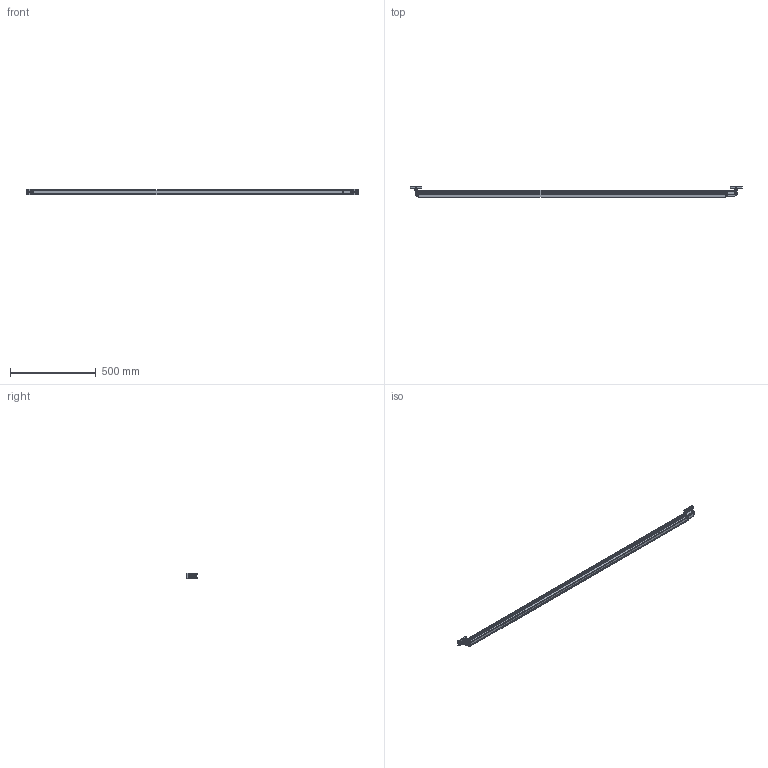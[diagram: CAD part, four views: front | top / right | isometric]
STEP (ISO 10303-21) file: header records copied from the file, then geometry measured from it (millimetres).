
FILE_DESCRIPTION((''),'2;1');
FILE_NAME('M:\INVENTORjob\Konstruktion\LV6036\Freigabe\Bauraummodelle\Geräte\stp\MLC_R_1800 EX-V2.stp','2016-02-05T10:39:13',('phaberl'),(''),'Autodesk Inventor 2009','Autodesk Inventor 2009','');
FILE_SCHEMA(('AUTOMOTIVE_DESIGN { 1 0 10303 214 1 1 1 1 }'));
Length unit declared in the file: millimetre
Products named in the file (15): MLC_R_1800 EX-V2; Anschlusskappe_R; Profil MLC 1800 EX-V2; Endkappe_R; BT-R_Zubehör; Wandteil_Zubehör; Klemmring_BT-R_Zubehör; DIN 912 - ersetzt durch DIN EN ISO 4762 M5 x 12; DIN 934 - ersetzt durch DIN EN 24032/28673/28674 M5; DIN 6912 M5 x 30; Zylinder_Zubehör; DIN 7991 - ersetzt durch DIN EN ISO 10642 M6  x  10; Nutenstein M6; EX-Ring Endkappe-R-V2; EX-Ring Anschlusskappe-R-V2
Assembly tree (18 placements, depth 3):
  MLC_R_1800 EX-V2
    Anschlusskappe_R
    Profil MLC 1800 EX-V2
    Endkappe_R
    BT-R_Zubehör  x2
      Wandteil_Zubehör
      Klemmring_BT-R_Zubehör
      DIN 912 - ersetzt durch DIN EN ISO 4762 M5 x 12
      DIN 934 - ersetzt durch DIN EN 24032/28673/28674 M5
      DIN 6912 M5 x 30
    Zylinder_Zubehör
    DIN 7991 - ersetzt durch DIN EN ISO 10642 M6  x  10
    Nutenstein M6  x2
    EX-Ring Endkappe-R-V2
    EX-Ring Anschlusskappe-R-V2
Bounding box: 1939.15 x 59.5 x 34 mm (x, y, z)
Volume: 1877962 mm3; surface area: 374626.6 mm2
Topology: 23 solids, 23 shells, 927 faces, 2463 edges, 1569 vertices
Faces by surface type: plane 400, cylinder 295, bspline 121, torus 47, cone 46, sphere 18
Full cylindrical faces by diameter (mm): 2.5 x2, 4.65 x2, 5 x12, 5.18 x2, 5.55 x2, 6 x1, 6.2 x9, 8.5 x4, 8.6 x2, 11.34 x1, 12 x2, 18 x1, 22.5 x1
Entity records: 17363 total; most frequent: CARTESIAN_POINT 5066, ORIENTED_EDGE 2498, DIRECTION 2409, EDGE_CURVE 1249, AXIS2_PLACEMENT_3D 858, VERTEX_POINT 833, VECTOR 693, LINE 693
